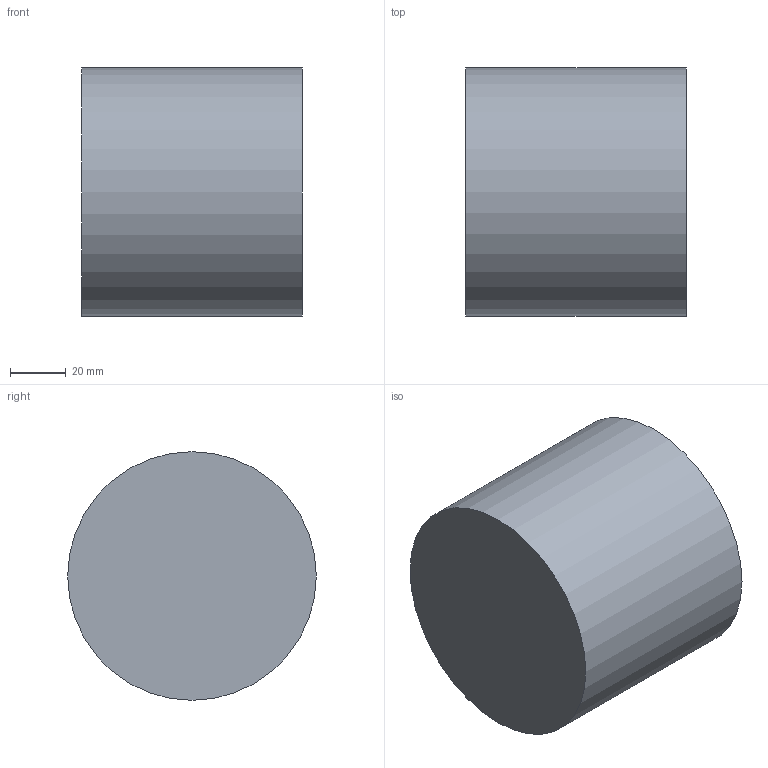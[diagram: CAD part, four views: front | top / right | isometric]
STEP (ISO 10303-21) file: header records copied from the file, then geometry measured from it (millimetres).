
FILE_DESCRIPTION(/* description */ (''),/* implementation_level */ '2;1');
FILE_NAME(/* name */ 'Endkappe 88.9.stp',/* time_stamp */ '2024-03-12T15:57:16+01:00',/* author */ ('peter.csaszar'),/* organization */ (''),/* preprocessor_version */ 'ST-DEVELOPER v20',/* originating_system */ 'Autodesk Inventor 2024',/* authorisation */ '');
FILE_SCHEMA (('AUTOMOTIVE_DESIGN { 1 0 10303 214 3 1 1 }'));
Length unit declared in the file: millimetre
Products named in the file (1): Bauteil1
Bounding box: 79 x 88.9 x 88.9 mm (x, y, z)
Volume: 54457 mm3; surface area: 55015.6 mm2
Topology: 1 solids, 1 shells, 5 faces, 6 edges, 4 vertices
Faces by surface type: plane 3, cylinder 2
Full cylindrical faces by diameter (mm): 84.9 x1, 88.9 x1
Entity records: 147 total; most frequent: DIRECTION 22, CARTESIAN_POINT 16, ORIENTED_EDGE 12, AXIS2_PLACEMENT_3D 10, EDGE_LOOP 6, EDGE_CURVE 6, FACE_OUTER_BOUND 5, ADVANCED_FACE 5
